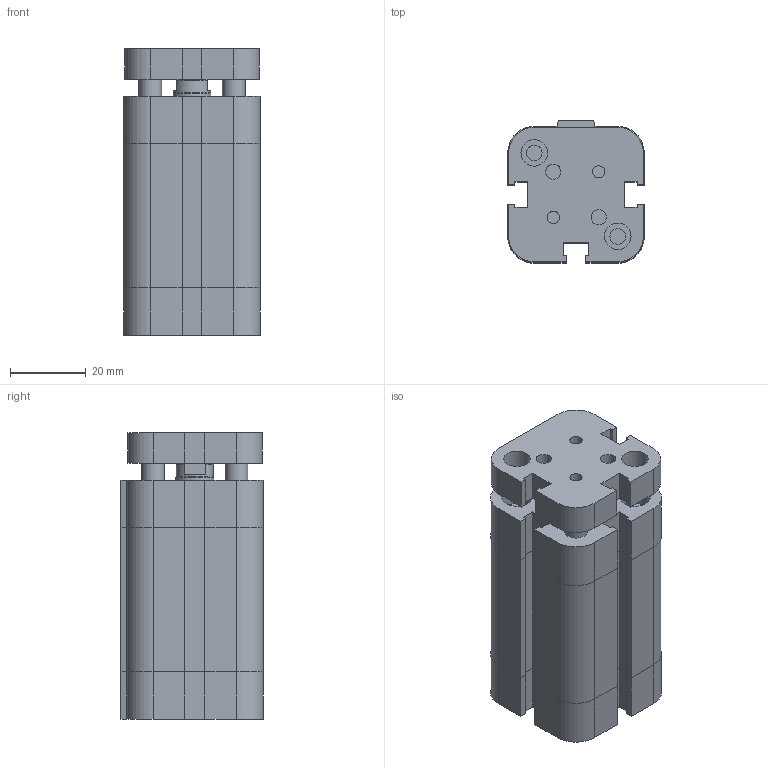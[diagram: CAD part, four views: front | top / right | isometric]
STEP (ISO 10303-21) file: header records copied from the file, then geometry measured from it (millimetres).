
FILE_DESCRIPTION((''),'2;1');
FILE_NAME('I:\Area Tecnica\Disegni\VARIE-3D\Componenti\EUROPE\15##_###_####_07_#\1581_20_0025_07_1.iam.stp','2009-04-20T15:19:44',(''),(''),'Autodesk Inventor 2009','Autodesk Inventor 2009','');
FILE_SCHEMA(('AUTOMOTIVE_DESIGN { 1 0 10303 214 1 1 1 1 }'));
Length unit declared in the file: millimetre
Products named in the file (3): 1581_20_0025_07_1; 1581_20_0025_07_1_C; 1561_20_0025_07_1_SA
Assembly tree (2 placements, depth 2):
  1581_20_0025_07_1
    1581_20_0025_07_1_C
    1561_20_0025_07_1_SA
Bounding box: 36 x 37.5 x 75.5 mm (x, y, z)
Volume: 80950.2 mm3; surface area: 24829.3 mm2
Topology: 2 solids, 2 shells, 206 faces, 483 edges, 301 vertices
Faces by surface type: plane 135, bspline 44, cylinder 21, cone 6
Full cylindrical faces by diameter (mm): 6 x2, 9.8 x2, 10 x1
Entity records: 6055 total; most frequent: CARTESIAN_POINT 1405, ORIENTED_EDGE 876, DIRECTION 854, EDGE_CURVE 438, VECTOR 340, LINE 340, VERTEX_POINT 286, EDGE_LOOP 268
